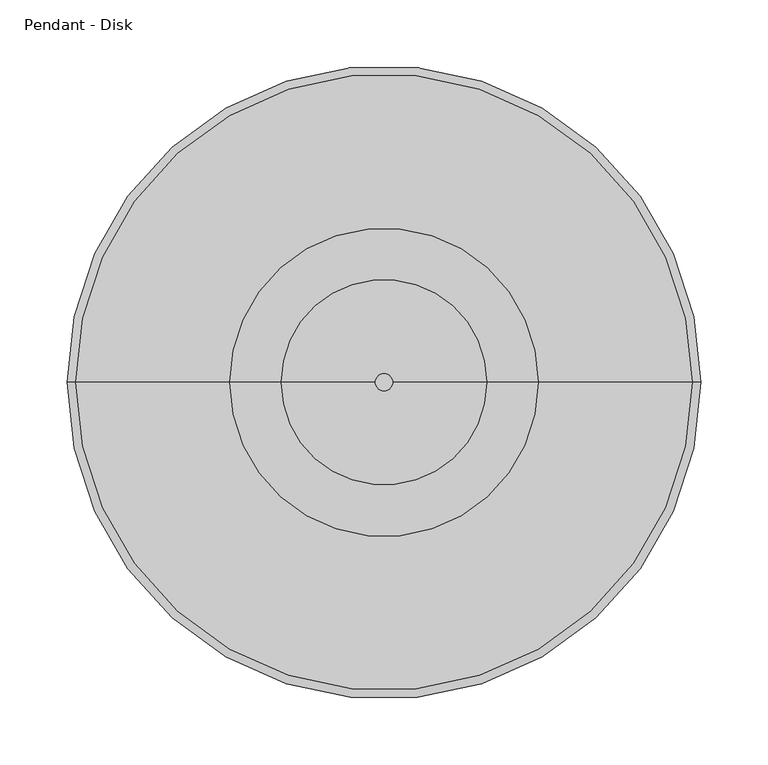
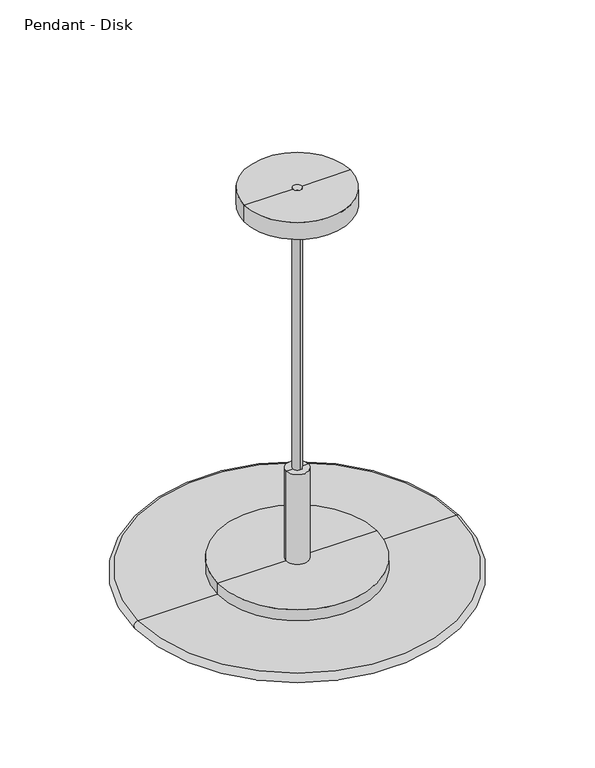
"""IFC4 building model written with IfcOpenShell, lengths in millimetres: light fixture geometry, Pendant - Disk : 150 watt Incandescant."""

from ifc_helpers import new_model, si_unit, point, frame, origin, origin_2d, place, context, project, spatial, polyline, circle_curve, ellipse_curve, trimmed, segment, composite_curve, outline, extrude, source, transform, mapped, element, save
from ifc_brep_helpers import plane_surface, cylinder_surface, revolved_surface, advanced_brep


def pendant_disk_c567000c(model_context):
    return source(origin(), model_context, "Body", "SolidModel", [
        advanced_brep(
        [(15.875, 0.0, 1876.875253), (15.875, 0.0, 2012.95), (-15.875, 0.0, 2012.95), (-15.875, 0.0, 1876.875253), (114.3, 0.0, 1876.875253), (-114.3, 0.0, 1876.875253), (114.3, 0.0, 1841.5000062), (-114.3, 0.0, 1841.5000062), (38.1, 0.0, 1841.5000062), (-38.1, 0.0, 1841.5000062), (38.1, 0.0, 1860.55), (-38.1, 0.0, 1860.55), (0.0, 0.0, 1860.55), (0.0, 0.0, 2012.95)],
        [
            (0, 1),
            (1, 2, circle_curve(frame((0.0, 0.0, 2012.95), z_axis=(0.0, 0.0, -1.0), x_axis=(-1.0, 0.0, 0.0)), 15.875)),
            (2, 3),
            (3, 0, circle_curve(frame((0.0, 0.0, 1876.875253), z_axis=(0.0, 0.0, 1.0), x_axis=(-1.0, 0.0, 0.0)), 15.875)),
            (2, 1, circle_curve(frame((0.0, 0.0, 2012.95), z_axis=(0.0, 0.0, -1.0), x_axis=(-1.0, 0.0, 0.0)), 15.875)),
            (0, 3, circle_curve(frame((0.0, 0.0, 1876.875253), z_axis=(0.0, 0.0, 1.0), x_axis=(-1.0, 0.0, 0.0)), 15.875)),
            (4, 0),
            (3, 5),
            (5, 4, circle_curve(frame((0.0, 0.0, 1876.875253), z_axis=(0.0, 0.0, 1.0), x_axis=(-1.0, 0.0, 0.0)), 114.3)),
            (4, 5, circle_curve(frame((0.0, 0.0, 1876.875253), z_axis=(0.0, 0.0, 1.0), x_axis=(-1.0, 0.0, 0.0)), 114.3)),
            (6, 4),
            (5, 7),
            (7, 6, circle_curve(frame((0.0, 0.0, 1841.5000062), z_axis=(0.0, 0.0, 1.0), x_axis=(-1.0, 0.0, 0.0)), 114.3)),
            (6, 7, circle_curve(frame((0.0, 0.0, 1841.5000062), z_axis=(0.0, 0.0, 1.0), x_axis=(-1.0, 0.0, 0.0)), 114.3)),
            (8, 6),
            (7, 9),
            (9, 8, circle_curve(frame((0.0, 0.0, 1841.5000062), z_axis=(0.0, 0.0, 1.0), x_axis=(-1.0, 0.0, 0.0)), 38.1)),
            (8, 9, circle_curve(frame((0.0, 0.0, 1841.5000062), z_axis=(0.0, 0.0, 1.0), x_axis=(-1.0, 0.0, 0.0)), 38.1)),
            (10, 8),
            (9, 11),
            (11, 10, circle_curve(frame((0.0, 0.0, 1860.55), z_axis=(0.0, 0.0, 1.0), x_axis=(-1.0, 0.0, 0.0)), 38.1)),
            (10, 11, circle_curve(frame((0.0, 0.0, 1860.55), z_axis=(0.0, 0.0, 1.0), x_axis=(-1.0, 0.0, 0.0)), 38.1)),
            (12, 10),
            (11, 12),
            (1, 13),
            (13, 2),
        ],
        [
            cylinder_surface(frame((0.0, 0.0, 2037.0629221), z_axis=(0.0, 0.0, -1.0), x_axis=(-1.0, 0.0, 0.0)), 15.875),
            plane_surface(frame((0.0, 0.0, 1876.875253), z_axis=(0.0, 0.0, 1.0), x_axis=(-1.0, 0.0, 0.0))),
            cylinder_surface(frame((0.0, 0.0, 2037.0629221), z_axis=(0.0, 0.0, -1.0), x_axis=(-1.0, 0.0, 0.0)), 114.3),
            plane_surface(frame((0.0, 0.0, 1841.5000062), z_axis=(0.0, 0.0, -1.0), x_axis=(-1.0, 0.0, 0.0))),
            revolved_surface(polyline([(-38.1, 0.0, 1841.5000062), (-38.1, 0.0, 1860.55)]), (0.0, 0.0, 2037.0629221), (0.0, 0.0, -1.0)),
            plane_surface(frame((0.0, 0.0, 1860.55), z_axis=(0.0, 0.0, -1.0), x_axis=(-1.0, 0.0, 0.0))),
            plane_surface(frame((0.0, 0.0, 2012.95), z_axis=(0.0, 0.0, 1.0), x_axis=(-1.0, 0.0, 0.0))),
        ],
        [
            (0, [[1, 2, 3, 4]]),
            (0, [[-3, 5, -1, 6]]),
            (1, [[7, -4, 8, 9]]),
            (1, [[-8, -6, -7, 10]]),
            (2, [[11, -9, 12, 13]]),
            (2, [[-12, -10, -11, 14]]),
            (3, [[15, -13, 16, 17]]),
            (3, [[-16, -14, -15, 18]]),
            (4, [[19, -17, 20, 21]]),
            (4, [[-20, -18, -19, 22]]),
            (5, [[23, -21, 24]]),
            (5, [[-24, -22, -23]]),
            (6, [[25, 26, -2]]),
            (6, [[-26, -25, -5]]),
        ],
    ),
        extrude(outline(composite_curve([segment(trimmed(circle_curve(origin_2d(), 6.35), [point((0.0, -6.35))], [point((0.0, 6.35))], False, "CARTESIAN"), True, "CONTINUOUS"), segment(trimmed(circle_curve(origin_2d(), 6.35), [point((0.0, 6.35))], [point((0.0, -6.35))], False, "CARTESIAN"), True, "CONTINUOUS")], self_intersect=False)), frame((0.0, 0.0, 1841.5000062), z_axis=(0.0, 0.0, 1.0), x_axis=(1.0, 0.0, 0.0)), (0.0, 0.0, 1.0), 596.9),
        advanced_brep(
        [(0.0, 0.0, 1847.85), (228.6, 0.0, 1847.85), (-228.6, 0.0, 1847.85), (228.6, 0.0, 1860.55), (0.0, 0.0, 1860.55), (-228.6, 0.0, 1860.55)],
        [
            (0, 1),
            (1, 2, circle_curve(frame((0.0, 0.0, 1847.85), z_axis=(0.0, 0.0, -1.0), x_axis=(-1.0, 0.0, 0.0)), 228.6)),
            (2, 0),
            (2, 1, circle_curve(frame((0.0, 0.0, 1847.85), z_axis=(0.0, 0.0, -1.0), x_axis=(-1.0, 0.0, 0.0)), 228.6)),
            (3, 4),
            (4, 5),
            (5, 3, circle_curve(frame((0.0, 0.0, 1860.55), z_axis=(0.0, 0.0, 1.0), x_axis=(-1.0, 0.0, 0.0)), 228.6)),
            (3, 5, circle_curve(frame((0.0, 0.0, 1860.55), z_axis=(0.0, 0.0, 1.0), x_axis=(-1.0, 0.0, 0.0)), 228.6)),
            (1, 3, circle_curve(frame((228.6, 0.0, 1854.2), z_axis=(0.0, -1.0, 0.0), x_axis=(0.0, 0.0, -1.0)), 6.35)),
            (5, 2, circle_curve(frame((-228.6, 0.0, 1854.2), z_axis=(0.0, -1.0, 0.0), x_axis=(0.0, 0.0, -1.0)), 6.35)),
        ],
        [
            plane_surface(frame((0.0, 0.0, 1847.85), z_axis=(0.0, 0.0, -1.0), x_axis=(-1.0, 0.0, 0.0))),
            plane_surface(frame((0.0, 0.0, 1860.55), z_axis=(0.0, 0.0, 1.0), x_axis=(-1.0, 0.0, 0.0))),
            revolved_surface(trimmed(ellipse_curve(frame((-228.6, 0.0, 1854.2), z_axis=(0.0, -1.0, 0.0), x_axis=(0.0, 0.0, -1.0)), 6.35, 6.35), [point((-228.6, 0.0, 1860.55))], [point((-228.6, 0.0, 1847.85))], True, "CARTESIAN"), (0.0, 0.0, 1925.6510876), (0.0, 0.0, -1.0)),
        ],
        [
            (0, [[1, 2, 3]]),
            (0, [[-3, 4, -1]]),
            (1, [[5, 6, 7]]),
            (1, [[-6, -5, 8]]),
            (2, [[9, -7, 10, -2]]),
            (2, [[-10, -8, -9, -4]]),
        ],
    ),
        advanced_brep(
        [(76.2, 0.0, 2413.0000062), (76.2, 0.0, 2438.4000062), (-76.2, 0.0, 2438.4000062), (-76.2, 0.0, 2413.0000062), (0.0, 0.0, 2377.4673627), (0.0, 0.0, 2438.4000062)],
        [
            (0, 1),
            (1, 2, circle_curve(frame((0.0, 0.0, 2438.4000062), z_axis=(0.0, 0.0, -1.0), x_axis=(-1.0, 0.0, 0.0)), 76.2)),
            (2, 3),
            (3, 0, circle_curve(frame((0.0, 0.0, 2413.0000062), z_axis=(0.0, 0.0, 1.0), x_axis=(-1.0, 0.0, 0.0)), 76.2)),
            (2, 1, circle_curve(frame((0.0, 0.0, 2438.4000062), z_axis=(0.0, 0.0, -1.0), x_axis=(-1.0, 0.0, 0.0)), 76.2)),
            (0, 3, circle_curve(frame((0.0, 0.0, 2413.0000062), z_axis=(0.0, 0.0, 1.0), x_axis=(-1.0, 0.0, 0.0)), 76.2)),
            (4, 0),
            (3, 4),
            (1, 5),
            (5, 2),
        ],
        [
            cylinder_surface(frame((0.0, 0.0, 2514.6000062), z_axis=(0.0, 0.0, -1.0), x_axis=(-1.0, 0.0, 0.0)), 76.2),
            revolved_surface(polyline([(-76.2, 0.0, 2413.0000062), (0.0, 0.0, 2377.4673627)]), (0.0, 0.0, 2514.6000062), (0.0, 0.0, -1.0)),
            plane_surface(frame((0.0, 0.0, 2438.4000062), z_axis=(0.0, 0.0, 1.0), x_axis=(-1.0, 0.0, 0.0))),
        ],
        [
            (0, [[1, 2, 3, 4]]),
            (0, [[-3, 5, -1, 6]]),
            (1, [[7, -4, 8]]),
            (1, [[-8, -6, -7]]),
            (2, [[9, 10, -2]]),
            (2, [[-10, -9, -5]]),
        ],
    ),
    ])


if __name__ == "__main__":
    model = new_model("IFC4")
    model_context = context("Model", 3, world=origin())
    ifc_project = project(units=[si_unit("LENGTHUNIT", "METRE", prefix="MILLI")], contexts=[model_context])
    site = spatial("IfcSite", under=ifc_project)
    building = spatial("IfcBuilding", under=site)
    placement = place(None, origin())
    pendant_disk_shape = pendant_disk_c567000c(model_context)
    element("IfcLightFixture", 1, ObjectType="Pendant - Disk : 150 watt Incandescant", at=placement, inside=building, context=model_context, shape_type="MappedRepresentation", body=[
        mapped(pendant_disk_shape, transform((0.0, 0.0, 0.0), x_axis=(1.0, 0.0, 0.0), y_axis=(0.0, 1.0, 0.0), z_axis=(0.0, 0.0, 1.0))),
    ])
    save(model, "model.ifc")
